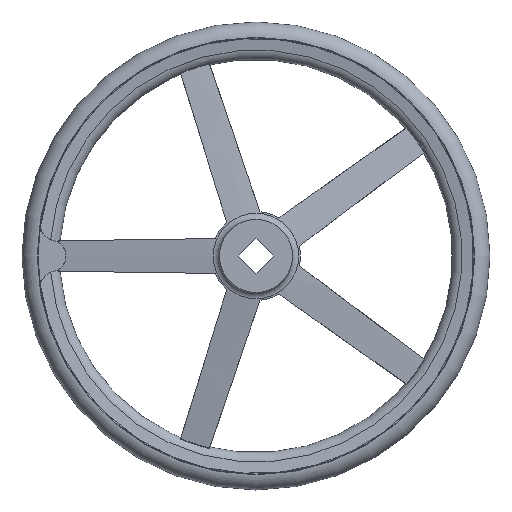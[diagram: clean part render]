
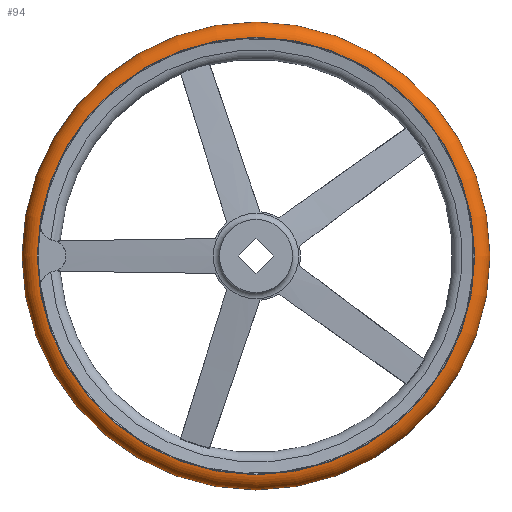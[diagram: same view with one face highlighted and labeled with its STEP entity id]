
A CAD part, left-side view. The second image highlights one B-rep face of the part: STEP entity #94.
In plain terms, the highlighted toroidal (fillet/blend) face has major radius 232.985 mm and minor radius 17.015 mm.
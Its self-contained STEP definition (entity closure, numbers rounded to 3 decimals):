
#94 = ADVANCED_FACE( '', ( #189, #190, #191 ), #192, .T. );
#189 = FACE_BOUND( '', #342, .T. );
#190 = FACE_OUTER_BOUND( '', #343, .T. );
#191 = FACE_OUTER_BOUND( '', #344, .T. );
#192 = TOROIDAL_SURFACE( '', #345, 232.985, 17.015 );
#342 = VERTEX_LOOP( '', #674 );
#343 = EDGE_LOOP( '', ( #675 ) );
#344 = EDGE_LOOP( '', ( #676 ) );
#345 = AXIS2_PLACEMENT_3D( '', #677, #678, #679 );
#674 = VERTEX_POINT( '', #1103 );
#675 = ORIENTED_EDGE( '', *, *, #1104, .T. );
#676 = ORIENTED_EDGE( '', *, *, #1100, .F. );
#677 = CARTESIAN_POINT( '', ( 55., 0., 0. ) );
#678 = DIRECTION( '', ( 1., 0., 0. ) );
#679 = DIRECTION( '', ( 0., 1., 0. ) );
#1100 = EDGE_CURVE( '', #1354, #1354, #1355, .T. );
#1103 = CARTESIAN_POINT( '', ( 55., 250., 0. ) );
#1104 = EDGE_CURVE( '', #1359, #1359, #1360, .T. );
#1354 = VERTEX_POINT( '', #2154 );
#1355 = CIRCLE( '', #2155, 233.708 );
#1359 = VERTEX_POINT( '', #2159 );
#1360 = CIRCLE( '', #2160, 233.708 );
#2154 = CARTESIAN_POINT( '', ( 72., 233.708, 0. ) );
#2155 = AXIS2_PLACEMENT_3D( '', #2521, #2522, #2523 );
#2159 = CARTESIAN_POINT( '', ( 38., 233.708, 0. ) );
#2160 = AXIS2_PLACEMENT_3D( '', #2530, #2531, #2532 );
#2521 = CARTESIAN_POINT( '', ( 72., 0., 0. ) );
#2522 = DIRECTION( '', ( 1., 0., 0. ) );
#2523 = DIRECTION( '', ( 0., 1., 0. ) );
#2530 = CARTESIAN_POINT( '', ( 38., 0., 0. ) );
#2531 = DIRECTION( '', ( 1., 0., 0. ) );
#2532 = DIRECTION( '', ( 0., 1., 0. ) );
